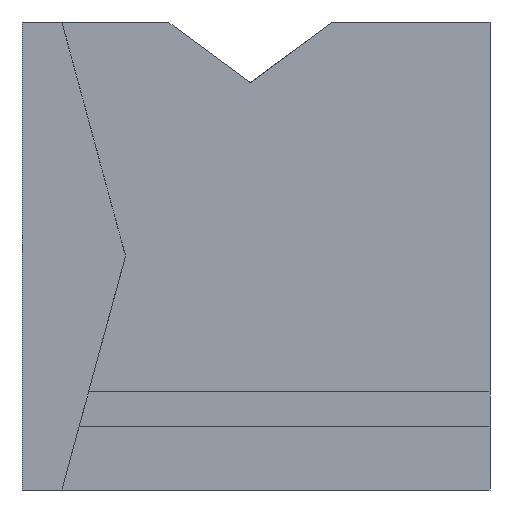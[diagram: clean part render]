
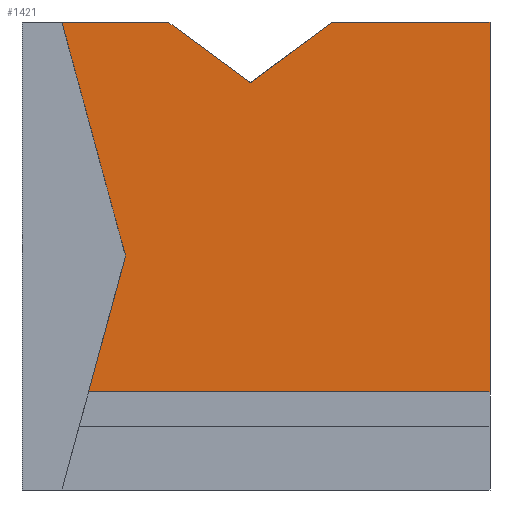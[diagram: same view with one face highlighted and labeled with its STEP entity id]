
A CAD part, front view. The second image highlights one B-rep face of the part: STEP entity #1421.
In plain terms, the highlighted planar face has unit normal (0, -1, 0).
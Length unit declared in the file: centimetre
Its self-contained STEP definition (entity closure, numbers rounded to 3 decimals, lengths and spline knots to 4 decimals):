
#35 = LINE ( 'NONE', #56, #991 ) ;
#56 = CARTESIAN_POINT ( 'NONE',  ( 221.2533, 0., 500. ) ) ;
#70 = ORIENTED_EDGE ( 'NONE', *, *, #948, .T. ) ;
#79 = LINE ( 'NONE', #670, #526 ) ;
#114 = LINE ( 'NONE', #835, #902 ) ;
#168 = DIRECTION ( 'NONE',  ( 0.262, 0., 0.965 ) ) ;
#191 = ORIENTED_EDGE ( 'NONE', *, *, #1173, .F. ) ;
#201 = LINE ( 'NONE', #908, #588 ) ;
#211 = ORIENTED_EDGE ( 'NONE', *, *, #540, .F. ) ;
#221 = CARTESIAN_POINT ( 'NONE',  ( 0., 0., 1000. ) ) ;
#227 = EDGE_CURVE ( 'NONE', #1027, #1428, #1073, .T. ) ;
#261 = VERTEX_POINT ( 'NONE', #1512 ) ;
#323 = VERTEX_POINT ( 'NONE', #354 ) ;
#354 = CARTESIAN_POINT ( 'NONE',  ( 664.2809, 0., 1000. ) ) ;
#404 = ORIENTED_EDGE ( 'NONE', *, *, #673, .F. ) ;
#431 = DIRECTION ( 'NONE',  ( 0., 0., 1. ) ) ;
#482 = DIRECTION ( 'NONE',  ( -0.805, 0., 0.593 ) ) ;
#499 = LINE ( 'NONE', #973, #1443 ) ;
#505 = VECTOR ( 'NONE', #1138, 100. ) ;
#526 = VECTOR ( 'NONE', #1377, 100. ) ;
#540 = EDGE_CURVE ( 'NONE', #323, #905, #1310, .T. ) ;
#588 = VECTOR ( 'NONE', #684, 100. ) ;
#602 = DIRECTION ( 'NONE',  ( 1., 0., 0. ) ) ;
#606 = DIRECTION ( 'NONE',  ( 1., 0., 0. ) ) ;
#670 = CARTESIAN_POINT ( 'NONE',  ( 1000., 0., 1000. ) ) ;
#672 = EDGE_LOOP ( 'NONE', ( #191, #1468, #404, #70, #729, #211, #1494, #1265 ) ) ;
#673 = EDGE_CURVE ( 'NONE', #1130, #975, #35, .T. ) ;
#684 = DIRECTION ( 'NONE',  ( 1., 0., 0. ) ) ;
#729 = ORIENTED_EDGE ( 'NONE', *, *, #960, .F. ) ;
#786 = CARTESIAN_POINT ( 'NONE',  ( 85.322, 0., 1000. ) ) ;
#835 = CARTESIAN_POINT ( 'NONE',  ( 488.1019, 0., 870.172 ) ) ;
#870 = FACE_OUTER_BOUND ( 'NONE', #672, .T. ) ;
#897 = CARTESIAN_POINT ( 'NONE',  ( 0., 0., 1000. ) ) ;
#902 = VECTOR ( 'NONE', #1305, 100. ) ;
#903 = EDGE_CURVE ( 'NONE', #975, #1147, #1371, .T. ) ;
#905 = VERTEX_POINT ( 'NONE', #907 ) ;
#907 = CARTESIAN_POINT ( 'NONE',  ( 1000., 0., 1000. ) ) ;
#908 = CARTESIAN_POINT ( 'NONE',  ( 0., 0., 209.5705 ) ) ;
#929 = CARTESIAN_POINT ( 'NONE',  ( 488.1019, 0., 870.172 ) ) ;
#948 = EDGE_CURVE ( 'NONE', #1130, #261, #201, .T. ) ;
#960 = EDGE_CURVE ( 'NONE', #905, #261, #79, .T. ) ;
#973 = CARTESIAN_POINT ( 'NONE',  ( 0., 0., 1000. ) ) ;
#975 = VERTEX_POINT ( 'NONE', #1261 ) ;
#983 = PLANE ( 'NONE',  #1168 ) ;
#991 = VECTOR ( 'NONE', #168, 100. ) ;
#1023 = EDGE_CURVE ( 'NONE', #323, #1027, #114, .T. ) ;
#1027 = VERTEX_POINT ( 'NONE', #929 ) ;
#1031 = DIRECTION ( 'NONE',  ( 0., 1., 0. ) ) ;
#1053 = CARTESIAN_POINT ( 'NONE',  ( 311.9228, 0., 1000. ) ) ;
#1062 = VECTOR ( 'NONE', #602, 100. ) ;
#1073 = LINE ( 'NONE', #1053, #1200 ) ;
#1084 = CARTESIAN_POINT ( 'NONE',  ( 142.2964, 0., 209.5705 ) ) ;
#1130 = VERTEX_POINT ( 'NONE', #1084 ) ;
#1138 = DIRECTION ( 'NONE',  ( -0.262, 0., 0.965 ) ) ;
#1147 = VERTEX_POINT ( 'NONE', #1202 ) ;
#1168 = AXIS2_PLACEMENT_3D ( 'NONE', #897, #1031, #431 ) ;
#1173 = EDGE_CURVE ( 'NONE', #1147, #1428, #499, .T. ) ;
#1200 = VECTOR ( 'NONE', #482, 100. ) ;
#1202 = CARTESIAN_POINT ( 'NONE',  ( 85.322, 0., 1000. ) ) ;
#1261 = CARTESIAN_POINT ( 'NONE',  ( 221.2533, 0., 500. ) ) ;
#1265 = ORIENTED_EDGE ( 'NONE', *, *, #227, .T. ) ;
#1305 = DIRECTION ( 'NONE',  ( -0.805, 0., -0.593 ) ) ;
#1310 = LINE ( 'NONE', #221, #1062 ) ;
#1371 = LINE ( 'NONE', #786, #505 ) ;
#1377 = DIRECTION ( 'NONE',  ( 0., 0., -1. ) ) ;
#1421 = ADVANCED_FACE ( 'NONE', ( #870 ), #983, .F. ) ;
#1424 = CARTESIAN_POINT ( 'NONE',  ( 311.9228, 0., 1000. ) ) ;
#1428 = VERTEX_POINT ( 'NONE', #1424 ) ;
#1443 = VECTOR ( 'NONE', #606, 100. ) ;
#1468 = ORIENTED_EDGE ( 'NONE', *, *, #903, .F. ) ;
#1494 = ORIENTED_EDGE ( 'NONE', *, *, #1023, .T. ) ;
#1512 = CARTESIAN_POINT ( 'NONE',  ( 1000., 0., 209.5705 ) ) ;
